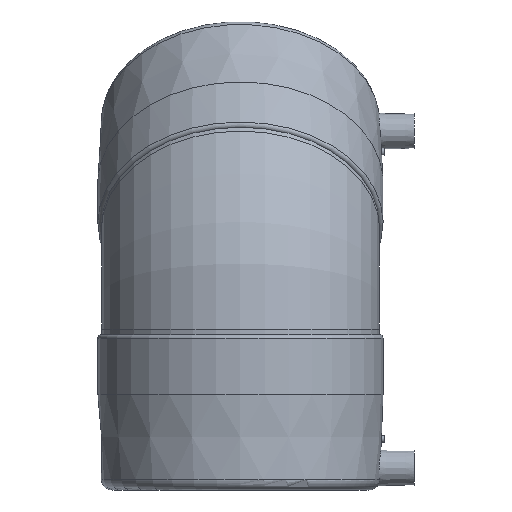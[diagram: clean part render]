
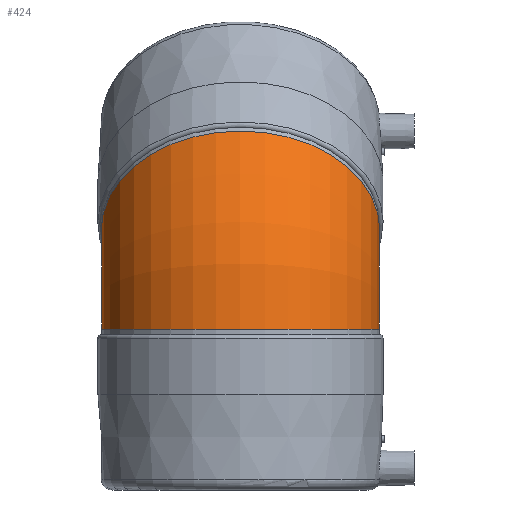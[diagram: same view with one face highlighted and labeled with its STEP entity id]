
A CAD part, left-side view. The second image highlights one B-rep face of the part: STEP entity #424.
In plain terms, the highlighted toroidal (fillet/blend) face has major radius 77.255 mm and minor radius 76 mm.
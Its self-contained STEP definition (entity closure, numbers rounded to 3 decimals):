
#24=TOROIDAL_SURFACE('',#491,77.255,76.);
#100=ORIENTED_EDGE('',*,*,#166,.F.);
#101=ORIENTED_EDGE('',*,*,#158,.T.);
#158=EDGE_CURVE('',#200,#200,#238,.F.);
#166=EDGE_CURVE('',#207,#207,#241,.F.);
#200=VERTEX_POINT('',#741);
#207=VERTEX_POINT('',#773);
#238=CIRCLE('',#485,76.);
#241=CIRCLE('',#492,76.);
#290=EDGE_LOOP('',(#100));
#291=EDGE_LOOP('',(#101));
#359=FACE_BOUND('',#290,.T.);
#360=FACE_BOUND('',#291,.T.);
#424=ADVANCED_FACE('',(#359,#360),#24,.T.);
#485=AXIS2_PLACEMENT_3D('',#740,#586,#587);
#491=AXIS2_PLACEMENT_3D('',#771,#598,#599);
#492=AXIS2_PLACEMENT_3D('',#772,#600,#601);
#586=DIRECTION('',(0.,0.,-1.));
#587=DIRECTION('',(1.,0.,0.));
#598=DIRECTION('',(0.,1.,0.));
#599=DIRECTION('',(0.,0.,1.));
#600=DIRECTION('',(-0.707,0.,-0.707));
#601=DIRECTION('',(0.707,0.,-0.707));
#740=CARTESIAN_POINT('',(0.,0.,-32.));
#741=CARTESIAN_POINT('',(76.,0.,-32.));
#771=CARTESIAN_POINT('',(77.255,0.,-32.));
#772=CARTESIAN_POINT('',(22.627,0.,22.627));
#773=CARTESIAN_POINT('',(76.368,0.,-31.113));
